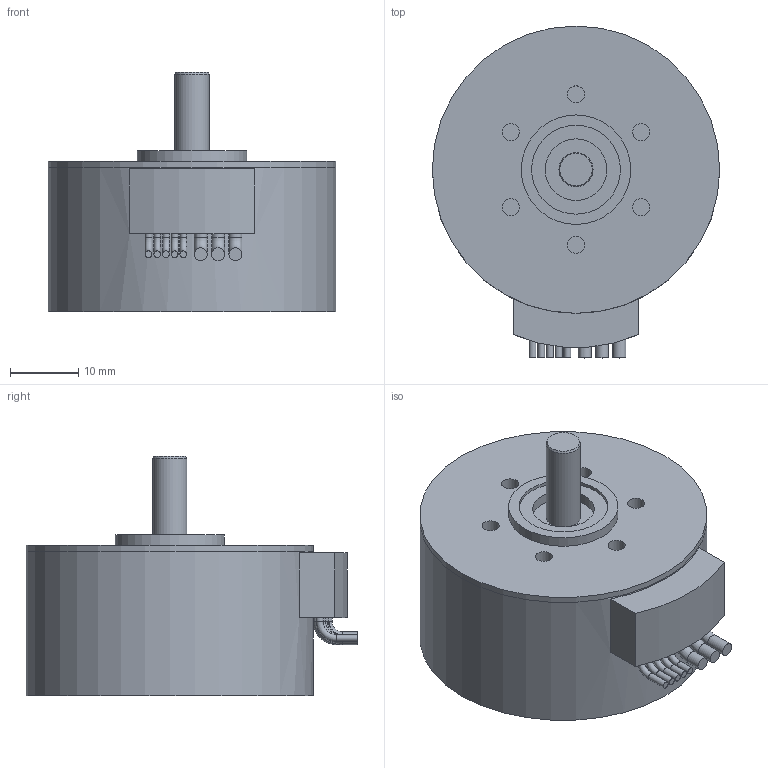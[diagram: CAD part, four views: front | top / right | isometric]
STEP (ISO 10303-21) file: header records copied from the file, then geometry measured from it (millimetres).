
FILE_DESCRIPTION(/* description */ (''),/* implementation_level */ '2;1');
FILE_NAME(/* name */ '4221.BXTH.stp',/* time_stamp */ '2019-07-24T08:40:58+02:00',/* author */ ('DR. FRITZ FAULHABER GmbH & Co. KG'),/* organization */ ('DR. FRITZ FAULHABER GmbH & Co. KG'),/* preprocessor_version */ 'ST-DEVELOPER v16.7',/* originating_system */ 'SIEMENS PLM Software NX 12.0',/* authorisation */ '');
FILE_SCHEMA (('AUTOMOTIVE_DESIGN { 1 0 10303 214 3 1 1 1 }'));
Length unit declared in the file: millimetre
Products named in the file (1): H00001432-C-4221.0H002
Bounding box: 42 x 48.5 x 35 mm (x, y, z)
Volume: 31763.1 mm3; surface area: 6682.9 mm2
Topology: 1 solids, 1 shells, 65 faces, 110 edges, 68 vertices
Faces by surface type: cylinder 30, plane 26, torus 8, cone 1
Full cylindrical faces by diameter (mm): 1 x10, 1.9 x6, 2.5 x6, 5 x1, 9 x1, 13 x1, 16 x1, 42 x3
Entity records: 1364 total; most frequent: DIRECTION 266, CARTESIAN_POINT 204, ORIENTED_EDGE 142, AXIS2_PLACEMENT_3D 129, EDGE_LOOP 124, FACE_BOUND 104, EDGE_CURVE 71, VERTEX_POINT 67
